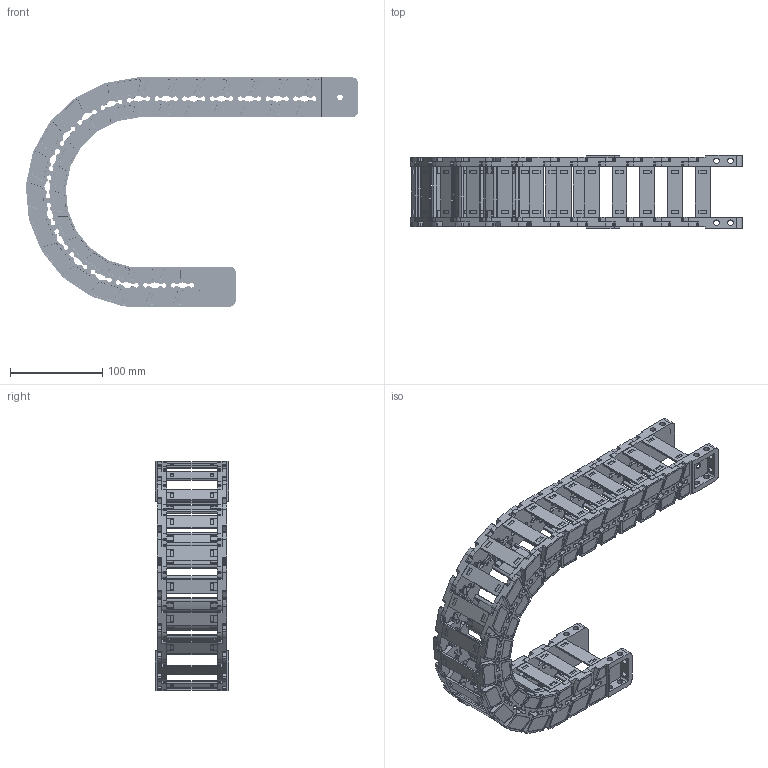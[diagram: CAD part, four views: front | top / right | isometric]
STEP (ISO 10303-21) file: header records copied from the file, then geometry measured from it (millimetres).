
FILE_DESCRIPTION((''),'2;1');
FILE_NAME('JY-35X55-R100_ASM','2025-01-05T19:22:32',('admin'),(''),'CREO PARAMETRIC BY PTC INC, 2021023','CREO PARAMETRIC BY PTC INC, 2021023','');
FILE_SCHEMA(('CONFIG_CONTROL_DESIGN'));
Length unit declared in the file: millimetre
Products named in the file (11): 35XL-L; YP; 35XL-R; ASM0001_ASM; 35-LTT-A-L; 35-LTT-A-R; 35XL-LTT-A_ASM; 35-LTT-B-L; 35-LTT-B-R; 35XL-LTT-B_ASM; JY-35X55-R100_ASM
Assembly tree (32 placements, depth 3):
  JY-35X55-R100_ASM
    ASM0001_ASM  x18
      35XL-L
      YP
      35XL-R
    35XL-LTT-A_ASM
      35-LTT-A-L
      YP  x2
      35-LTT-A-R
    35XL-LTT-B_ASM
      35-LTT-B-L
      YP  x2
      35-LTT-B-R
Bounding box: 359.13 x 79 x 247.81 mm (x, y, z)
Volume: 542636.7 mm3; surface area: 320923.6 mm2
Topology: 80 solids, 80 shells, 6520 faces, 19542 edges, 13190 vertices
Faces by surface type: plane 3688, cylinder 2148, cone 418, extrusion 152, bspline 114
Entity records: 27866 total; most frequent: CARTESIAN_POINT 6165, ORIENTED_EDGE 4640, DIRECTION 4359, EDGE_CURVE 2320, VERTEX_POINT 1568, AXIS2_PLACEMENT_3D 1471, VECTOR 1417, LINE 1401
